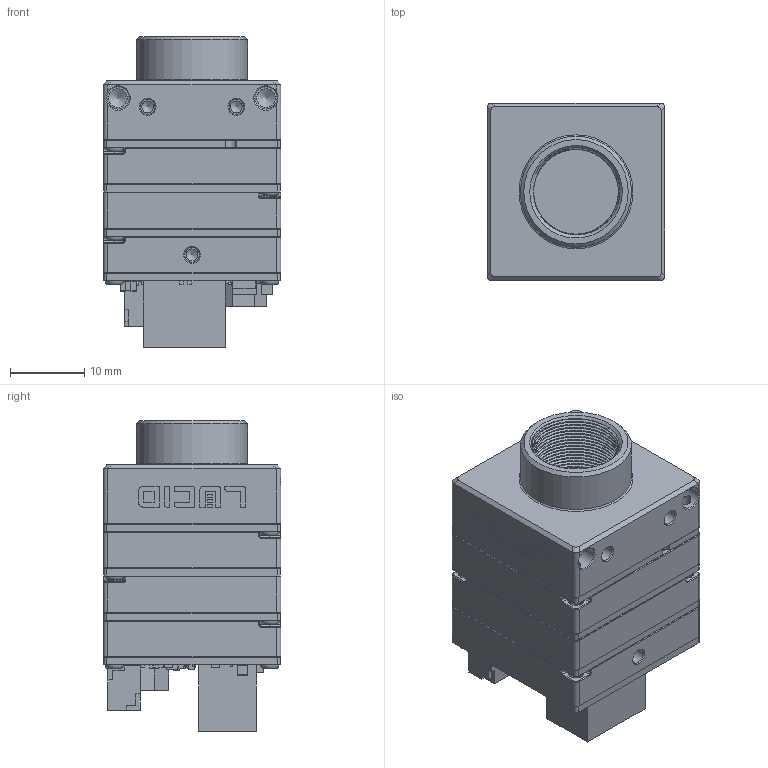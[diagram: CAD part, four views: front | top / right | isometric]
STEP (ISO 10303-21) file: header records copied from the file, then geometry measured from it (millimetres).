
FILE_DESCRIPTION (( 'STEP AP203' ), '1' );
FILE_NAME ('613-179-A_PHX24 S-MOUNT-IX_CUBE.STEP', '2018-10-16T21:30:27', ( '' ), ( '' ), 'SwSTEP 2.0', 'SolidWorks 2017', '' );
FILE_SCHEMA (( 'CONFIG_CONTROL_DESIGN' ));
Products named in the file (1): 613-179-A_PHX24 S-MOUNT-IX_CUBE
Bounding box: 24 x 24 x 42 mm (x, y, z)
Surface area: 16278.2 mm2 (no closed solid volume)
Topology: 0 solids, 182 shells, 8116 faces, 19806 edges, 11314 vertices
Faces by surface type: plane 4104, cylinder 2543, bspline 1112, cone 212, torus 81, sphere 64
Full cylindrical faces by diameter (mm): 0.099 x1, 1 x3, 1.05 x1, 1.2 x1, 1.35 x4, 1.6 x5, 1.7 x20, 1.9 x22, 2 x5, 2.5 x4, 3 x4, 15 x1
Entity records: 242385 total; most frequent: CARTESIAN_POINT 61887, ORIENTED_EDGE 37239, DIRECTION 37122, EDGE_CURVE 18620, LINE 12688, VECTOR 12688, AXIS2_PLACEMENT_3D 12217, VERTEX_POINT 11279
